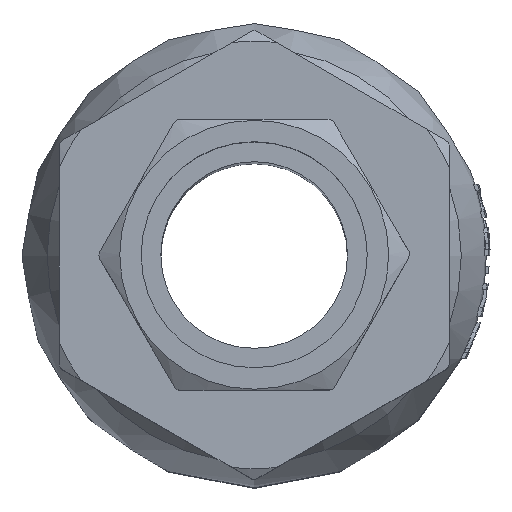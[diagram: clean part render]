
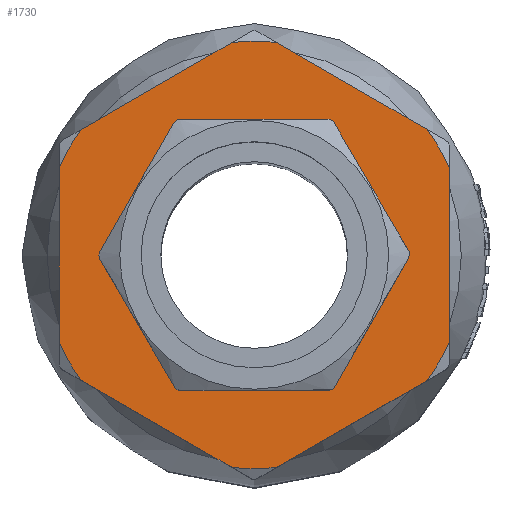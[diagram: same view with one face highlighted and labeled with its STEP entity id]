
A CAD part, top view. The second image highlights one B-rep face of the part: STEP entity #1730.
In plain terms, the highlighted planar face has unit normal (0, 0, 1).
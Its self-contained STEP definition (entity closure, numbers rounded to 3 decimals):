
#1730=ADVANCED_FACE('',(#4480,#4482),#4484,.T.);
#4480=FACE_BOUND('',#4481,.T.);
#4481=EDGE_LOOP('',(#5645,#5646,#5647,#5648,#5649,#5650,#5651,#5652,#5653,#5654,
#5655,#5656));
#4482=FACE_BOUND('',#4483,.T.);
#4483=EDGE_LOOP('',(#5657,#5658,#5659,#5660,#5661,#5662,#5663,#5664,#5665,#5666,
#5667,#5668));
#4484=PLANE('',#4485);
#4485=AXIS2_PLACEMENT_3D('',#4486,#4487,#4488);
#4486=CARTESIAN_POINT('',(0.,18.146,82.));
#4487=DIRECTION('',(0.,0.,1.));
#4488=DIRECTION('',(1.,0.,0.));
#5645=ORIENTED_EDGE('',*,*,#6234,.T.);
#5646=ORIENTED_EDGE('',*,*,#6217,.T.);
#5647=ORIENTED_EDGE('',*,*,#6223,.T.);
#5648=ORIENTED_EDGE('',*,*,#6205,.T.);
#5649=ORIENTED_EDGE('',*,*,#6212,.T.);
#5650=ORIENTED_EDGE('',*,*,#6316,.T.);
#5651=ORIENTED_EDGE('',*,*,#6192,.T.);
#5652=ORIENTED_EDGE('',*,*,#6199,.T.);
#5653=ORIENTED_EDGE('',*,*,#6248,.T.);
#5654=ORIENTED_EDGE('',*,*,#6239,.T.);
#5655=ORIENTED_EDGE('',*,*,#6245,.T.);
#5656=ORIENTED_EDGE('',*,*,#6228,.T.);
#5657=ORIENTED_EDGE('',*,*,#6285,.T.);
#5658=ORIENTED_EDGE('',*,*,#6268,.F.);
#5659=ORIENTED_EDGE('',*,*,#6266,.T.);
#5660=ORIENTED_EDGE('',*,*,#6251,.F.);
#5661=ORIENTED_EDGE('',*,*,#6317,.T.);
#5662=ORIENTED_EDGE('',*,*,#6271,.F.);
#5663=ORIENTED_EDGE('',*,*,#6274,.T.);
#5664=ORIENTED_EDGE('',*,*,#6276,.F.);
#5665=ORIENTED_EDGE('',*,*,#6278,.T.);
#5666=ORIENTED_EDGE('',*,*,#6280,.F.);
#5667=ORIENTED_EDGE('',*,*,#6282,.T.);
#5668=ORIENTED_EDGE('',*,*,#6284,.F.);
#6192=EDGE_CURVE('',#7001,#6999,#7002,.T.);
#6199=EDGE_CURVE('',#6999,#7012,#7014,.T.);
#6205=EDGE_CURVE('',#7025,#7023,#7026,.T.);
#6212=EDGE_CURVE('',#7023,#7036,#7038,.T.);
#6217=EDGE_CURVE('',#7046,#7044,#7047,.T.);
#6223=EDGE_CURVE('',#7044,#7025,#7057,.T.);
#6228=EDGE_CURVE('',#7065,#7063,#7066,.T.);
#6234=EDGE_CURVE('',#7063,#7046,#7076,.T.);
#6239=EDGE_CURVE('',#7084,#7082,#7085,.T.);
#6245=EDGE_CURVE('',#7082,#7065,#7095,.T.);
#6248=EDGE_CURVE('',#7012,#7084,#7098,.T.);
#6251=EDGE_CURVE('',#7102,#7104,#7105,.F.);
#6266=EDGE_CURVE('',#7132,#7104,#7133,.T.);
#6268=EDGE_CURVE('',#7132,#7135,#7136,.F.);
#6271=EDGE_CURVE('',#7138,#7140,#7141,.F.);
#6274=EDGE_CURVE('',#7138,#7143,#7145,.T.);
#6276=EDGE_CURVE('',#7146,#7143,#7148,.F.);
#6278=EDGE_CURVE('',#7146,#7149,#7151,.T.);
#6280=EDGE_CURVE('',#7152,#7149,#7154,.F.);
#6282=EDGE_CURVE('',#7152,#7155,#7157,.T.);
#6284=EDGE_CURVE('',#7158,#7155,#7160,.F.);
#6285=EDGE_CURVE('',#7158,#7135,#7161,.T.);
#6316=EDGE_CURVE('',#7036,#7001,#7199,.T.);
#6317=EDGE_CURVE('',#7102,#7140,#7200,.T.);
#6999=VERTEX_POINT('',#14739);
#7001=VERTEX_POINT('',#14761);
#7002=CIRCLE('',#14762,28.635);
#7012=VERTEX_POINT('',#14837);
#7014=LINE('',#14859,#14860);
#7023=VERTEX_POINT('',#14990);
#7025=VERTEX_POINT('',#15010);
#7026=LINE('',#15011,#15012);
#7036=VERTEX_POINT('',#15081);
#7038=CIRCLE('',#15101,28.635);
#7044=VERTEX_POINT('',#15228);
#7046=VERTEX_POINT('',#15250);
#7047=LINE('',#15251,#15252);
#7057=CIRCLE('',#15327,28.635);
#7063=VERTEX_POINT('',#15454);
#7065=VERTEX_POINT('',#15474);
#7066=LINE('',#15475,#15476);
#7076=CIRCLE('',#15545,28.635);
#7082=VERTEX_POINT('',#15672);
#7084=VERTEX_POINT('',#15692);
#7085=LINE('',#15693,#15694);
#7095=CIRCLE('',#15763,28.635);
#7098=CIRCLE('',#15885,28.635);
#7102=VERTEX_POINT('',#15950);
#7104=VERTEX_POINT('',#15954);
#7105=CIRCLE('',#15955,1.);
#7132=VERTEX_POINT('',#16565);
#7133=LINE('',#16566,#16567);
#7135=VERTEX_POINT('',#16572);
#7136=CIRCLE('',#16573,1.);
#7138=VERTEX_POINT('',#16580);
#7140=VERTEX_POINT('',#16584);
#7141=CIRCLE('',#16585,1.);
#7143=VERTEX_POINT('',#16592);
#7145=LINE('',#16596,#16597);
#7146=VERTEX_POINT('',#16599);
#7148=CIRCLE('',#16603,1.);
#7149=VERTEX_POINT('',#16607);
#7151=LINE('',#16611,#16612);
#7152=VERTEX_POINT('',#16614);
#7154=CIRCLE('',#16618,1.);
#7155=VERTEX_POINT('',#16622);
#7157=LINE('',#16626,#16627);
#7158=VERTEX_POINT('',#16629);
#7160=CIRCLE('',#16633,1.);
#7161=LINE('',#16637,#16638);
#7199=LINE('',#16816,#16817);
#7200=LINE('',#16819,#16820);
#14739=CARTESIAN_POINT('',(26.146,-11.677,82.));
#14761=CARTESIAN_POINT('',(23.185,-16.804,82.));
#14762=AXIS2_PLACEMENT_3D('',#14763,#14764,#14765);
#14763=CARTESIAN_POINT('',(0.,0.,82.));
#14764=DIRECTION('',(0.,0.,1.));
#14765=DIRECTION('',(0.81,-0.587,0.));
#14837=CARTESIAN_POINT('',(26.146,11.677,82.));
#14859=CARTESIAN_POINT('',(26.146,-11.677,82.));
#14860=VECTOR('',#14861,1.);
#14861=DIRECTION('',(0.,1.,0.));
#14990=CARTESIAN_POINT('',(-2.96,-28.481,82.));
#15010=CARTESIAN_POINT('',(-23.185,-16.804,82.));
#15011=CARTESIAN_POINT('',(-23.185,-16.804,82.));
#15012=VECTOR('',#15013,1.);
#15013=DIRECTION('',(0.866,-0.5,0.));
#15081=CARTESIAN_POINT('',(2.96,-28.481,82.));
#15101=AXIS2_PLACEMENT_3D('',#15102,#15103,#15104);
#15102=CARTESIAN_POINT('',(0.,0.,82.));
#15103=DIRECTION('',(0.,0.,1.));
#15104=DIRECTION('',(-0.103,-0.995,0.));
#15228=CARTESIAN_POINT('',(-26.146,-11.677,82.));
#15250=CARTESIAN_POINT('',(-26.146,11.677,82.));
#15251=CARTESIAN_POINT('',(-26.146,11.677,82.));
#15252=VECTOR('',#15253,1.);
#15253=DIRECTION('',(0.,-1.,0.));
#15327=AXIS2_PLACEMENT_3D('',#15328,#15329,#15330);
#15328=CARTESIAN_POINT('',(0.,0.,82.));
#15329=DIRECTION('',(0.,0.,1.));
#15330=DIRECTION('',(-0.913,-0.408,0.));
#15454=CARTESIAN_POINT('',(-23.185,16.804,82.));
#15474=CARTESIAN_POINT('',(-2.96,28.481,82.));
#15475=CARTESIAN_POINT('',(-2.96,28.481,82.));
#15476=VECTOR('',#15477,1.);
#15477=DIRECTION('',(-0.866,-0.5,0.));
#15545=AXIS2_PLACEMENT_3D('',#15546,#15547,#15548);
#15546=CARTESIAN_POINT('',(0.,0.,82.));
#15547=DIRECTION('',(0.,0.,1.));
#15548=DIRECTION('',(-0.81,0.587,0.));
#15672=CARTESIAN_POINT('',(2.96,28.481,82.));
#15692=CARTESIAN_POINT('',(23.185,16.804,82.));
#15693=CARTESIAN_POINT('',(23.185,16.804,82.));
#15694=VECTOR('',#15695,1.);
#15695=DIRECTION('',(-0.866,0.5,0.));
#15763=AXIS2_PLACEMENT_3D('',#15764,#15765,#15766);
#15764=CARTESIAN_POINT('',(0.,0.,82.));
#15765=DIRECTION('',(0.,0.,1.));
#15766=DIRECTION('',(0.103,0.995,0.));
#15885=AXIS2_PLACEMENT_3D('',#15886,#15887,#15888);
#15886=CARTESIAN_POINT('',(0.,0.,82.));
#15887=DIRECTION('',(0.,0.,1.));
#15888=DIRECTION('',(0.913,0.408,0.));
#15950=CARTESIAN_POINT('',(9.958,-18.113,82.));
#15954=CARTESIAN_POINT('',(10.822,-17.61,82.));
#15955=AXIS2_PLACEMENT_3D('',#15956,#15957,#15958);
#15956=CARTESIAN_POINT('',(9.955,-17.113,82.));
#15957=DIRECTION('',(0.,0.,-1.));
#15958=DIRECTION('',(0.868,-0.497,0.));
#16565=CARTESIAN_POINT('',(20.665,-0.433,82.));
#16566=CARTESIAN_POINT('',(20.665,-0.433,82.));
#16567=VECTOR('',#16568,1.);
#16568=DIRECTION('',(-0.497,-0.868,0.));
#16572=CARTESIAN_POINT('',(20.662,0.567,82.));
#16573=AXIS2_PLACEMENT_3D('',#16574,#16575,#16576);
#16574=CARTESIAN_POINT('',(19.798,0.064,82.));
#16575=DIRECTION('',(0.,0.,-1.));
#16576=DIRECTION('',(0.864,0.503,0.));
#16580=CARTESIAN_POINT('',(-10.708,-17.68,82.));
#16584=CARTESIAN_POINT('',(-9.84,-18.178,82.));
#16585=AXIS2_PLACEMENT_3D('',#16586,#16587,#16588);
#16586=CARTESIAN_POINT('',(-9.843,-17.178,82.));
#16587=DIRECTION('',(0.,0.,-1.));
#16588=DIRECTION('',(0.003,-1.,0.));
#16592=CARTESIAN_POINT('',(-20.662,-0.567,82.));
#16596=CARTESIAN_POINT('',(-10.708,-17.68,82.));
#16597=VECTOR('',#16598,1.);
#16598=DIRECTION('',(-0.503,0.864,0.));
#16599=CARTESIAN_POINT('',(-20.665,0.433,82.));
#16603=AXIS2_PLACEMENT_3D('',#16604,#16605,#16606);
#16604=CARTESIAN_POINT('',(-19.798,-0.064,82.));
#16605=DIRECTION('',(0.,0.,-1.));
#16606=DIRECTION('',(-0.864,-0.503,0.));
#16607=CARTESIAN_POINT('',(-10.822,17.61,82.));
#16611=CARTESIAN_POINT('',(-20.665,0.433,82.));
#16612=VECTOR('',#16613,1.);
#16613=DIRECTION('',(0.497,0.868,0.));
#16614=CARTESIAN_POINT('',(-9.958,18.113,82.));
#16618=AXIS2_PLACEMENT_3D('',#16619,#16620,#16621);
#16619=CARTESIAN_POINT('',(-9.955,17.113,82.));
#16620=DIRECTION('',(0.,0.,-1.));
#16621=DIRECTION('',(-0.868,0.497,0.));
#16622=CARTESIAN_POINT('',(9.84,18.178,82.));
#16626=CARTESIAN_POINT('',(-9.958,18.113,82.));
#16627=VECTOR('',#16628,1.);
#16628=DIRECTION('',(1.,0.003,0.));
#16629=CARTESIAN_POINT('',(10.708,17.68,82.));
#16633=AXIS2_PLACEMENT_3D('',#16634,#16635,#16636);
#16634=CARTESIAN_POINT('',(9.843,17.178,82.));
#16635=DIRECTION('',(0.,0.,-1.));
#16636=DIRECTION('',(-0.003,1.,0.));
#16637=CARTESIAN_POINT('',(10.708,17.68,82.));
#16638=VECTOR('',#16639,1.);
#16639=DIRECTION('',(0.503,-0.864,0.));
#16816=CARTESIAN_POINT('',(2.96,-28.481,82.));
#16817=VECTOR('',#16818,1.);
#16818=DIRECTION('',(0.866,0.5,0.));
#16819=CARTESIAN_POINT('',(9.958,-18.113,82.));
#16820=VECTOR('',#16821,1.);
#16821=DIRECTION('',(-1.,-0.003,0.));
